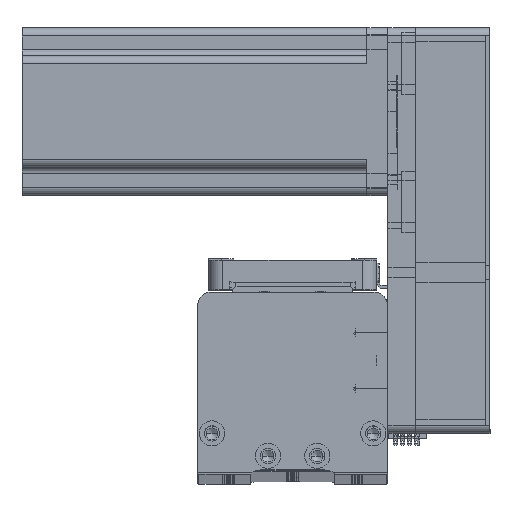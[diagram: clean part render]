
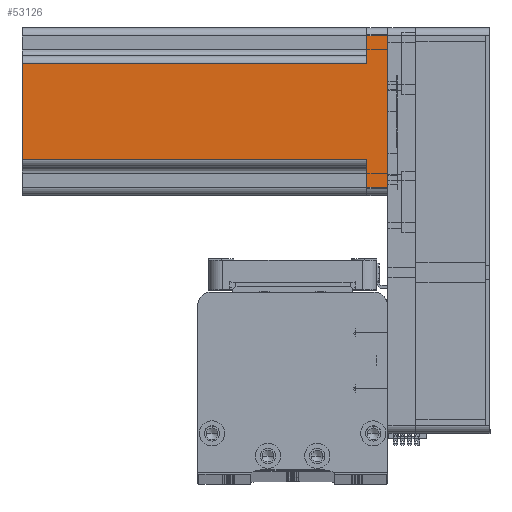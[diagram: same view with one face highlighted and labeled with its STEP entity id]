
A CAD part, top view. The second image highlights one B-rep face of the part: STEP entity #53126.
In plain terms, the highlighted planar face has unit normal (0, 0, 1) as drawn and (0, -1, 0) by its records, which use the part's own axes.
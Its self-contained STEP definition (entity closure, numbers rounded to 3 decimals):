
#1252 = CARTESIAN_POINT ( 'NONE',  ( 27., -30., 7.5 ) ) ;
#1773 = CARTESIAN_POINT ( 'NONE',  ( -27., -30., 0. ) ) ;
#5435 = CARTESIAN_POINT ( 'NONE',  ( -17., -30., 7.5 ) ) ;
#5452 = VECTOR ( 'NONE', #54212, 1000. ) ;
#6216 = AXIS2_PLACEMENT_3D ( 'NONE', #48018, #21621, #52516 ) ;
#6306 = VECTOR ( 'NONE', #54835, 1000. ) ;
#9392 = CARTESIAN_POINT ( 'NONE',  ( 30., -30., 0. ) ) ;
#9602 = ORIENTED_EDGE ( 'NONE', *, *, #16617, .T. ) ;
#9888 = DIRECTION ( 'NONE',  ( 1., 0., 0. ) ) ;
#9918 = VERTEX_POINT ( 'NONE', #1773 ) ;
#11040 = VERTEX_POINT ( 'NONE', #40295 ) ;
#12468 = LINE ( 'NONE', #41092, #47615 ) ;
#12773 = EDGE_CURVE ( 'NONE', #42914, #54327, #42012, .T. ) ;
#12911 = CARTESIAN_POINT ( 'NONE',  ( -17., -30., 130.7 ) ) ;
#13745 = CARTESIAN_POINT ( 'NONE',  ( 20., -30., 7.5 ) ) ;
#13837 = FACE_OUTER_BOUND ( 'NONE', #27858, .T. ) ;
#14314 = ORIENTED_EDGE ( 'NONE', *, *, #54581, .T. ) ;
#14318 = CARTESIAN_POINT ( 'NONE',  ( 30., -30., 130.7 ) ) ;
#14348 = LINE ( 'NONE', #14318, #24655 ) ;
#14491 = CARTESIAN_POINT ( 'NONE',  ( 27., -30., 130.7 ) ) ;
#15188 = ORIENTED_EDGE ( 'NONE', *, *, #35915, .T. ) ;
#16617 = EDGE_CURVE ( 'NONE', #21185, #31235, #41443, .T. ) ;
#19023 = LINE ( 'NONE', #27828, #41064 ) ;
#21185 = VERTEX_POINT ( 'NONE', #12911 ) ;
#21621 = DIRECTION ( 'NONE',  ( 0., 1., 0. ) ) ;
#22459 = EDGE_CURVE ( 'NONE', #54327, #50264, #42557, .T. ) ;
#24193 = ORIENTED_EDGE ( 'NONE', *, *, #41136, .F. ) ;
#24206 = LINE ( 'NONE', #9392, #25588 ) ;
#24655 = VECTOR ( 'NONE', #9888, 1000. ) ;
#24942 = DIRECTION ( 'NONE',  ( 0., 0., -1. ) ) ;
#25588 = VECTOR ( 'NONE', #35755, 1000. ) ;
#25878 = PLANE ( 'NONE',  #6216 ) ;
#27828 = CARTESIAN_POINT ( 'NONE',  ( -20., -30., 7.5 ) ) ;
#27858 = EDGE_LOOP ( 'NONE', ( #24193, #9602, #39249, #14314, #31492, #56210, #40824, #15188 ) ) ;
#30877 = VECTOR ( 'NONE', #40328, 1000. ) ;
#31235 = VERTEX_POINT ( 'NONE', #5435 ) ;
#31299 = CARTESIAN_POINT ( 'NONE',  ( 27., -30., 0. ) ) ;
#31492 = ORIENTED_EDGE ( 'NONE', *, *, #52629, .T. ) ;
#35312 = LINE ( 'NONE', #42485, #45626 ) ;
#35755 = DIRECTION ( 'NONE',  ( 1., 0., 0. ) ) ;
#35915 = EDGE_CURVE ( 'NONE', #50264, #56088, #12468, .T. ) ;
#38158 = EDGE_CURVE ( 'NONE', #11040, #31235, #19023, .T. ) ;
#39249 = ORIENTED_EDGE ( 'NONE', *, *, #38158, .F. ) ;
#40295 = CARTESIAN_POINT ( 'NONE',  ( -27., -30., 7.5 ) ) ;
#40328 = DIRECTION ( 'NONE',  ( -1., 0., 0. ) ) ;
#40824 = ORIENTED_EDGE ( 'NONE', *, *, #22459, .T. ) ;
#41064 = VECTOR ( 'NONE', #49592, 1000. ) ;
#41092 = CARTESIAN_POINT ( 'NONE',  ( 17., -30., 130.7 ) ) ;
#41136 = EDGE_CURVE ( 'NONE', #21185, #56088, #14348, .T. ) ;
#41443 = LINE ( 'NONE', #50389, #6306 ) ;
#42012 = LINE ( 'NONE', #14491, #5452 ) ;
#42485 = CARTESIAN_POINT ( 'NONE',  ( -27., -30., 130.7 ) ) ;
#42557 = LINE ( 'NONE', #13745, #30877 ) ;
#42914 = VERTEX_POINT ( 'NONE', #31299 ) ;
#44818 = CARTESIAN_POINT ( 'NONE',  ( 17., -30., 7.5 ) ) ;
#45626 = VECTOR ( 'NONE', #24942, 1000. ) ;
#46348 = CARTESIAN_POINT ( 'NONE',  ( 17., -30., 130.7 ) ) ;
#47615 = VECTOR ( 'NONE', #54809, 1000. ) ;
#48018 = CARTESIAN_POINT ( 'NONE',  ( 30., -30., 130.7 ) ) ;
#49592 = DIRECTION ( 'NONE',  ( 1., 0., 0. ) ) ;
#50264 = VERTEX_POINT ( 'NONE', #44818 ) ;
#50389 = CARTESIAN_POINT ( 'NONE',  ( -17., -30., 130.7 ) ) ;
#52516 = DIRECTION ( 'NONE',  ( -1., 0., 0. ) ) ;
#52629 = EDGE_CURVE ( 'NONE', #9918, #42914, #24206, .T. ) ;
#53126 = ADVANCED_FACE ( 'NONE', ( #13837 ), #25878, .F. ) ;
#54212 = DIRECTION ( 'NONE',  ( 0., 0., 1. ) ) ;
#54327 = VERTEX_POINT ( 'NONE', #1252 ) ;
#54581 = EDGE_CURVE ( 'NONE', #11040, #9918, #35312, .T. ) ;
#54809 = DIRECTION ( 'NONE',  ( 0., 0., 1. ) ) ;
#54835 = DIRECTION ( 'NONE',  ( 0., 0., -1. ) ) ;
#56088 = VERTEX_POINT ( 'NONE', #46348 ) ;
#56210 = ORIENTED_EDGE ( 'NONE', *, *, #12773, .T. ) ;
